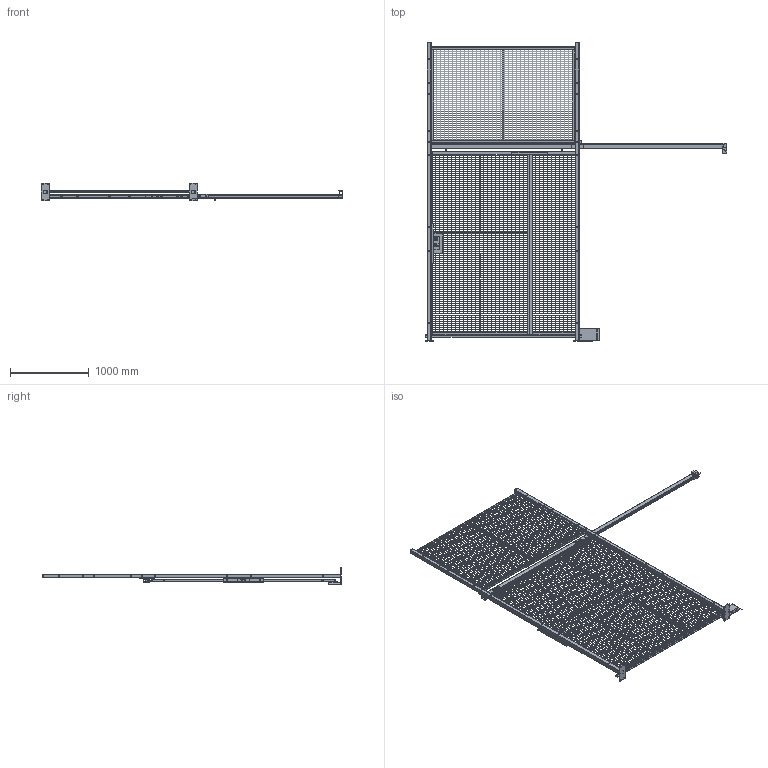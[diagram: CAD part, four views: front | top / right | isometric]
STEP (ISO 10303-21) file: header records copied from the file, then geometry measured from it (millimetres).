
FILE_DESCRIPTION (( 'STEP AP214' ), '1' );
FILE_NAME ('SD6812RHI.STEP', '2021-04-01T12:04:44', ( '' ), ( '' ), 'SwSTEP 2.0', 'SolidWorks 2021', '' );
FILE_SCHEMA (( 'AUTOMOTIVE_DESIGN' ));
Length unit declared in the file: inch
Products named in the file (52): COMMON WIRE_10GA X 47; SDTJBKT-CHNNL; SDLKRECT; SGDG12; SDDEPCH; COMMON 840 POST_DP12P; COMMON WIRE_10GA X 90.5; COMMON STRU ANGLE 11418_PX4PC; SDREC; COMMON 840 SLIDE DOOR_SD4-RH; COMMON STRU ANGLE 11418_PXSD8PL; SDTJBKT-ANGLE; POST CAP; COMMON WIRE_10GA X 23; FS12412TMS; SF-1 LATCH; SDLKCOV; SDTCBKT; COMMON FLAT BAR_PXSDFV; COMMON STRU ANGLE 11418_PXSD8PX; SD6812RHI; COMMON MESH_MHSD4; COMMON WIRE_10GA X 71.5; SDTT4WH_CUT BOLT; SDRECB; COMMON 840 SLIDE DOOR SUB_SD68RH; SDSDT; COMMON FLAT BAR_PXL2FH; COMMON MESH_MH64; COMMON STRU ANGLE 11418_PXSD4PC; RTAPFL; HDLKPLATEB; COMMON STRU ANGLE 11418_PXL2PC; HDLKPLATEF; COMMON 840 POST WELD_DP12P; COMMON STRU ANGLE 11418_PX6; SDSCH412238; COMMON MESH_SDL2; SDTJBKT; COMMON WIRE_10GA X 49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
Assembly tree (360 placements, depth 5):
  SD6812RHI
    COMMON 840 POST WELD_DP12P  x2
      COMMON BASE PLATE_BP49
      COMMON 840 POST_DP12P
      POST CAP
    COMMON 840 SD TRK ASSEMBLY_SD TRK12 RHI
      COMMON SD TRK_SDTRK12
      SDSDT
      SDTCBKT  x2
      RTAPFL
    COMMON 840 SLIDE DOOR SUB_SD68RH
      COMMON 840 SLIDE DOOR_SD4-RH
        COMMON STRU ANGLE 11418_PXSD4PC  x2
        COMMON STRU ANGLE 11418_PXSD8PX
        COMMON STRU ANGLE 11418_PXSD8PL
        HDLKPLATEF
        HDLKPLATEB
        COMMON FLAT BAR_PXSD4FH  x2
        COMMON FLAT BAR_PXSDFV  x2
        SDLKCOV
        COMMON MESH_MHSD4
          COMMON WIRE_10GA X 49  x91
          COMMON WIRE_10GA X 90.5  x25
        SF-1 LATCH
          SF-1 LATCH
          SB-1
      COMMON 840 SLIDE DOOR_SDL2
        COMMON STRU ANGLE 11418_PXL2PC  x2
        COMMON STRU ANGLE 11418_PXSD8PX  x2
        COMMON MESH_SDL2
          COMMON WIRE_10GA X 23  x91
          COMMON WIRE_10GA X 90.5  x12
        COMMON FLAT BAR_PXL2FH
      SDDEPCH
    SDTT4WH_CUT BOLT  x2
      SDTT4WH_NO BOLT
      FS12412TMS
    COMMON 840 PANEL FRAME_64
      COMMON STRU ANGLE 11418_PX6  x2
      COMMON STRU ANGLE 11418_PX4PC  x2
      COMMON FLAT BAR_PX4F
      COMMON MESH_MH64
        COMMON WIRE_10GA X 71.5  x47
        COMMON WIRE_10GA X 47  x36
    SDTJBKT
      SDTJBKT-CHNNL
      SDTJBKT-ANGLE
    SGDG12
    SDSCH412238  x2
    SDREC
      SDRECB
      SDLKRECT
      SDRECA
    COMMON SD COVER BAR_SDCB1
Bounding box: 3835.03 x 3794.76 x 228.6 mm (x, y, z)
Volume: 13953935 mm3; surface area: 12497372.1 mm2
Topology: 363 solids, 369 shells, 3594 faces, 7608 edges, 4819 vertices
Faces by surface type: plane 1864, cylinder 1113, cone 365, bspline 188, torus 60, sphere 4
Full cylindrical faces by diameter (mm): 3.429 x302, 5.182 x4, 6.35 x4, 9.525 x174, 11.112 x12, 12.7 x79, 14.021 x1, 14.046 x1, 14.287 x12, 19.05 x2, 34.049 x1, 35.687 x1, 38.862 x1, 44.704 x1, 45.822 x1, 50.8 x8, 53.975 x8
Entity records: 81714 total; most frequent: CARTESIAN_POINT 33267, DIRECTION 9079, ORIENTED_EDGE 8742, EDGE_CURVE 4383, AXIS2_PLACEMENT_3D 3174, VERTEX_POINT 2942, LINE 2731, VECTOR 2731
